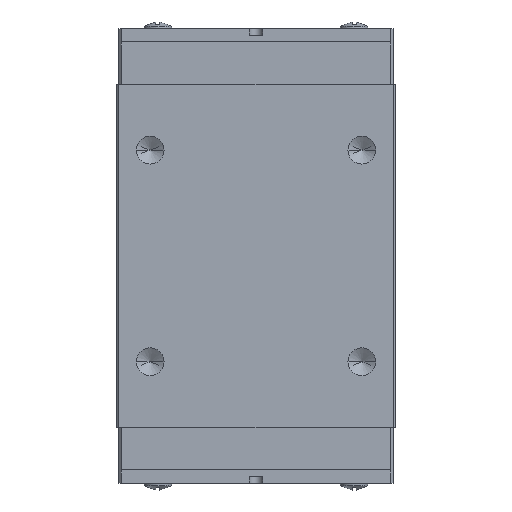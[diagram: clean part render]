
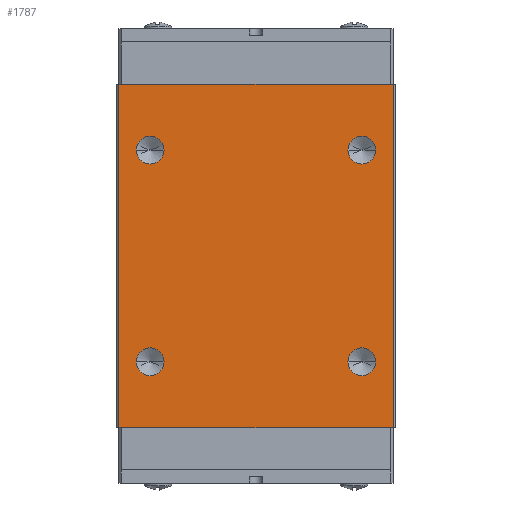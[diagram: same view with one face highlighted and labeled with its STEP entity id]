
A CAD part, top view. The second image highlights one B-rep face of the part: STEP entity #1787.
In plain terms, the highlighted planar face has unit normal (0, 0, 1).
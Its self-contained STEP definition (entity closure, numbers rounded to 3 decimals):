
#1175=EDGE_CURVE('',#2827,#2293,#3380,.T.);
#1181=EDGE_CURVE('',#1247,#2859,#3386,.T.);
#1247=VERTEX_POINT('',#3457);
#1423=EDGE_CURVE('',#3095,#1713,#3651,.T.);
#1605=VERTEX_POINT('',#3851);
#1713=VERTEX_POINT('',#3974);
#1787=ADVANCED_FACE('',(#4056,#4057,#4058,#4059,#4060),#4061,.T.);
#1807=EDGE_CURVE('',#2699,#1605,#4085,.T.);
#1943=EDGE_CURVE('',#2109,#3281,#4236,.T.);
#2109=VERTEX_POINT('',#4413);
#2243=VERTEX_POINT('',#4558);
#2281=EDGE_CURVE('',#3281,#2109,#4600,.T.);
#2293=VERTEX_POINT('',#4616);
#2399=EDGE_CURVE('',#2859,#1247,#4731,.T.);
#2415=EDGE_CURVE('',#2243,#2985,#4747,.T.);
#2433=EDGE_CURVE('',#2293,#1605,#4768,.T.);
#2699=VERTEX_POINT('',#5058);
#2827=VERTEX_POINT('',#5201);
#2859=VERTEX_POINT('',#5235);
#2983=EDGE_CURVE('',#2827,#2699,#5370,.T.);
#2985=VERTEX_POINT('',#5372);
#3095=VERTEX_POINT('',#5492);
#3167=EDGE_CURVE('',#2985,#2243,#5572,.T.);
#3269=EDGE_CURVE('',#1713,#3095,#5685,.T.);
#3281=VERTEX_POINT('',#5698);
#3380=LINE('',#5817,#5818);
#3386=CIRCLE('',#5828,1.25);
#3457=CARTESIAN_POINT('',(10.75,10.9,9.0));
#3651=CIRCLE('',#6284,1.25);
#3851=CARTESIAN_POINT('',(12.3,5.0,9.0));
#3974=CARTESIAN_POINT('',(-10.75,29.9,9.0));
#4056=FACE_BOUND('',#6903,.T.);
#4057=FACE_BOUND('',#6904,.T.);
#4058=FACE_BOUND('',#6905,.T.);
#4059=FACE_BOUND('',#6906,.T.);
#4060=FACE_OUTER_BOUND('',#6907,.T.);
#4061=PLANE('',#6908);
#4085=LINE('',#6936,#6937);
#4236=CIRCLE('',#7189,1.25);
#4413=CARTESIAN_POINT('',(8.25,29.9,9.0));
#4558=CARTESIAN_POINT('',(-10.75,10.9,9.0));
#4600=CIRCLE('',#7803,1.25);
#4616=CARTESIAN_POINT('',(-12.3,5.0,9.0));
#4731=CIRCLE('',#7996,1.25);
#4747=CIRCLE('',#8017,1.25);
#4768=LINE('',#8054,#8055);
#5058=CARTESIAN_POINT('',(12.3,35.8,9.0));
#5201=CARTESIAN_POINT('',(-12.3,35.8,9.0));
#5235=CARTESIAN_POINT('',(8.25,10.9,9.0));
#5370=LINE('',#8995,#8996);
#5372=CARTESIAN_POINT('',(-8.25,10.9,9.0));
#5492=CARTESIAN_POINT('',(-8.25,29.9,9.0));
#5572=CIRCLE('',#9318,1.25);
#5685=CIRCLE('',#9476,1.25);
#5698=CARTESIAN_POINT('',(10.75,29.9,9.0));
#5817=CARTESIAN_POINT('',(-12.3,35.8,9.0));
#5818=VECTOR('',#9622,1.0);
#5828=AXIS2_PLACEMENT_3D('',#9627,#9628,#9629);
#6284=AXIS2_PLACEMENT_3D('',#9922,#9923,#9924);
#6903=EDGE_LOOP('',(#10451,#10452));
#6904=EDGE_LOOP('',(#10453,#10454));
#6905=EDGE_LOOP('',(#10455,#10456));
#6906=EDGE_LOOP('',(#10457,#10458));
#6907=EDGE_LOOP('',(#10459,#10460,#10461,#10462));
#6908=AXIS2_PLACEMENT_3D('',#10463,#10464,#10465);
#6936=CARTESIAN_POINT('',(12.3,35.8,9.0));
#6937=VECTOR('',#10503,1.0);
#7189=AXIS2_PLACEMENT_3D('',#10669,#10670,#10671);
#7803=AXIS2_PLACEMENT_3D('',#10988,#10989,#10990);
#7996=AXIS2_PLACEMENT_3D('',#11159,#11160,#11161);
#8017=AXIS2_PLACEMENT_3D('',#11164,#11165,#11166);
#8054=CARTESIAN_POINT('',(-12.3,5.0,9.0));
#8055=VECTOR('',#11202,1.0);
#8995=CARTESIAN_POINT('',(-12.3,35.8,9.0));
#8996=VECTOR('',#11797,1.0);
#9318=AXIS2_PLACEMENT_3D('',#11976,#11977,#11978);
#9476=AXIS2_PLACEMENT_3D('',#12088,#12089,#12090);
#9622=DIRECTION('',(0.0,-1.0,0.0));
#9627=CARTESIAN_POINT('',(9.5,10.9,9.0));
#9628=DIRECTION('',(0.0,0.0,-1.0));
#9629=DIRECTION('',(1.0,0.0,0.0));
#9922=CARTESIAN_POINT('',(-9.5,29.9,9.0));
#9923=DIRECTION('',(0.0,0.0,-1.0));
#9924=DIRECTION('',(1.0,0.0,0.0));
#10451=ORIENTED_EDGE('',*,*,#2281,.T.);
#10452=ORIENTED_EDGE('',*,*,#1943,.T.);
#10453=ORIENTED_EDGE('',*,*,#1181,.T.);
#10454=ORIENTED_EDGE('',*,*,#2399,.T.);
#10455=ORIENTED_EDGE('',*,*,#1423,.T.);
#10456=ORIENTED_EDGE('',*,*,#3269,.T.);
#10457=ORIENTED_EDGE('',*,*,#3167,.T.);
#10458=ORIENTED_EDGE('',*,*,#2415,.T.);
#10459=ORIENTED_EDGE('',*,*,#2433,.T.);
#10460=ORIENTED_EDGE('',*,*,#1807,.F.);
#10461=ORIENTED_EDGE('',*,*,#2983,.F.);
#10462=ORIENTED_EDGE('',*,*,#1175,.T.);
#10463=CARTESIAN_POINT('',(-12.3,35.8,9.0));
#10464=DIRECTION('',(0.0,0.0,1.0));
#10465=DIRECTION('',(-1.0,0.0,-0.0));
#10503=DIRECTION('',(0.0,-1.0,0.0));
#10669=CARTESIAN_POINT('',(9.5,29.9,9.0));
#10670=DIRECTION('',(0.0,0.0,-1.0));
#10671=DIRECTION('',(1.0,0.0,0.0));
#10988=CARTESIAN_POINT('',(9.5,29.9,9.0));
#10989=DIRECTION('',(0.0,0.0,-1.0));
#10990=DIRECTION('',(1.0,0.0,0.0));
#11159=CARTESIAN_POINT('',(9.5,10.9,9.0));
#11160=DIRECTION('',(0.0,0.0,-1.0));
#11161=DIRECTION('',(1.0,0.0,0.0));
#11164=CARTESIAN_POINT('',(-9.5,10.9,9.0));
#11165=DIRECTION('',(0.0,0.0,-1.0));
#11166=DIRECTION('',(1.0,0.0,0.0));
#11202=DIRECTION('',(1.0,0.0,0.0));
#11797=DIRECTION('',(1.0,0.0,0.0));
#11976=CARTESIAN_POINT('',(-9.5,10.9,9.0));
#11977=DIRECTION('',(0.0,0.0,-1.0));
#11978=DIRECTION('',(1.0,0.0,0.0));
#12088=CARTESIAN_POINT('',(-9.5,29.9,9.0));
#12089=DIRECTION('',(0.0,0.0,-1.0));
#12090=DIRECTION('',(1.0,0.0,0.0));
